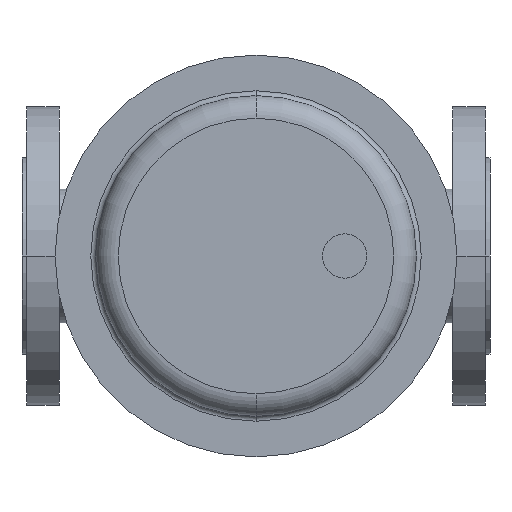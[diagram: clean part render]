
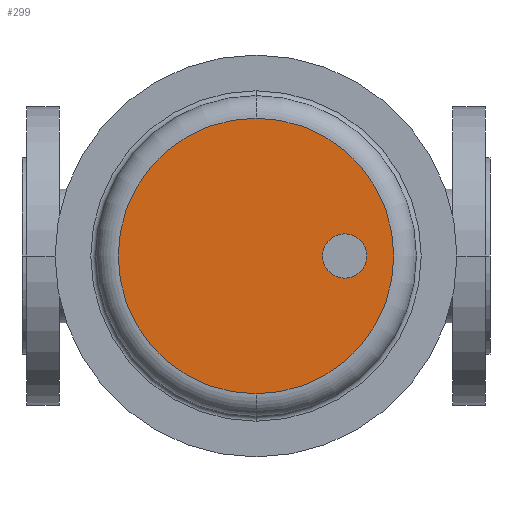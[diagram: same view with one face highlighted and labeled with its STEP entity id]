
A CAD part, front view. The second image highlights one B-rep face of the part: STEP entity #299.
In plain terms, the highlighted planar face has unit normal (0, -1, 0).
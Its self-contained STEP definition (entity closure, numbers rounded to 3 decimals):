
#299 = ADVANCED_FACE( '', ( #716, #717 ), #718, .T. );
#716 = FACE_BOUND( '', #1149, .T. );
#717 = FACE_OUTER_BOUND( '', #1150, .T. );
#718 = PLANE( '', #1151 );
#1149 = EDGE_LOOP( '', ( #2561, #2562 ) );
#1150 = EDGE_LOOP( '', ( #2563, #2564, #2565 ) );
#1151 = AXIS2_PLACEMENT_3D( '', #2566, #2567, #2568 );
#2561 = ORIENTED_EDGE( '', *, *, #3106, .T. );
#2562 = ORIENTED_EDGE( '', *, *, #3108, .T. );
#2563 = ORIENTED_EDGE( '', *, *, #3100, .F. );
#2564 = ORIENTED_EDGE( '', *, *, #3099, .F. );
#2565 = ORIENTED_EDGE( '', *, *, #3109, .F. );
#2566 = CARTESIAN_POINT( '', ( 187.688, -498., 0. ) );
#2567 = DIRECTION( '', ( 0., -1., 0. ) );
#2568 = DIRECTION( '', ( -1., 0., 0. ) );
#3099 = EDGE_CURVE( '', #3844, #3847, #3848, .T. );
#3100 = EDGE_CURVE( '', #3847, #3849, #3850, .T. );
#3106 = EDGE_CURVE( '', #3854, #3858, #3860, .T. );
#3108 = EDGE_CURVE( '', #3858, #3854, #3862, .T. );
#3109 = EDGE_CURVE( '', #3849, #3844, #3863, .T. );
#3844 = VERTEX_POINT( '', #5279 );
#3847 = VERTEX_POINT( '', #5282 );
#3848 = CIRCLE( '', #5283, 85.375 );
#3849 = VERTEX_POINT( '', #5284 );
#3850 = CIRCLE( '', #5285, 85.375 );
#3854 = VERTEX_POINT( '', #5289 );
#3858 = VERTEX_POINT( '', #5294 );
#3860 = CIRCLE( '', #5297, 13.75 );
#3862 = CIRCLE( '', #5299, 13.75 );
#3863 = CIRCLE( '', #5300, 85.375 );
#5279 = CARTESIAN_POINT( '', ( 145., -498., 85.375 ) );
#5282 = CARTESIAN_POINT( '', ( 230.375, -498., 0. ) );
#5283 = AXIS2_PLACEMENT_3D( '', #6305, #6306, #6307 );
#5284 = CARTESIAN_POINT( '', ( 145., -498., -85.375 ) );
#5285 = AXIS2_PLACEMENT_3D( '', #6308, #6309, #6310 );
#5289 = CARTESIAN_POINT( '', ( 213.75, -498., 0. ) );
#5294 = CARTESIAN_POINT( '', ( 186.25, -498., 0. ) );
#5297 = AXIS2_PLACEMENT_3D( '', #6322, #6323, #6324 );
#5299 = AXIS2_PLACEMENT_3D( '', #6328, #6329, #6330 );
#5300 = AXIS2_PLACEMENT_3D( '', #6331, #6332, #6333 );
#6305 = CARTESIAN_POINT( '', ( 145., -498., 0. ) );
#6306 = DIRECTION( '', ( 0., 1., 0. ) );
#6307 = DIRECTION( '', ( 1., 0., 0. ) );
#6308 = CARTESIAN_POINT( '', ( 145., -498., 0. ) );
#6309 = DIRECTION( '', ( 0., 1., 0. ) );
#6310 = DIRECTION( '', ( 1., 0., 0. ) );
#6322 = CARTESIAN_POINT( '', ( 200., -498., 0. ) );
#6323 = DIRECTION( '', ( 0., 1., 0. ) );
#6324 = DIRECTION( '', ( 1., 0., 0. ) );
#6328 = CARTESIAN_POINT( '', ( 200., -498., 0. ) );
#6329 = DIRECTION( '', ( 0., 1., 0. ) );
#6330 = DIRECTION( '', ( 1., 0., 0. ) );
#6331 = CARTESIAN_POINT( '', ( 145., -498., 0. ) );
#6332 = DIRECTION( '', ( 0., 1., 0. ) );
#6333 = DIRECTION( '', ( 1., 0., 0. ) );
